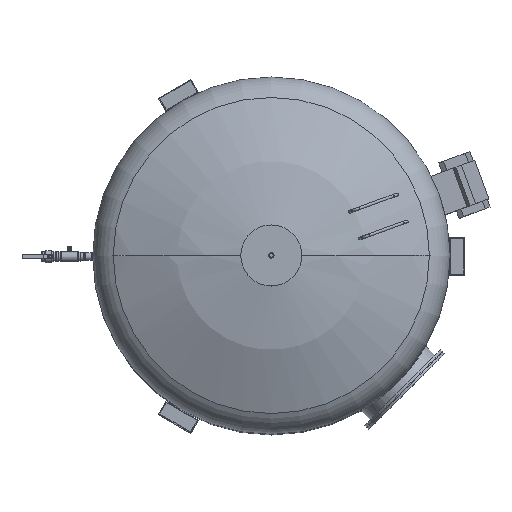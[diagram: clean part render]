
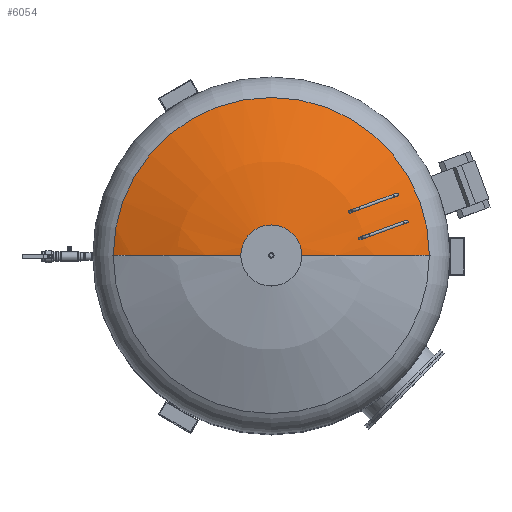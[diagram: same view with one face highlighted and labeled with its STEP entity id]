
A CAD part, top view. The second image highlights one B-rep face of the part: STEP entity #6054.
In plain terms, the highlighted spherical face has radius 2006 mm.
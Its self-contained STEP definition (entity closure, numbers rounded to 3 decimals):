
#68=SPHERICAL_SURFACE('',#6640,2006.);
#689=FACE_OUTER_BOUND('',#1059,.T.);
#1059=EDGE_LOOP('',(#4940,#4941,#4942,#4943,#4944,#4945,#4946,#4947));
#1309=CIRCLE('',#6390,2006.);
#1310=CIRCLE('',#6391,2006.);
#1311=CIRCLE('',#6392,2006.);
#1313=CIRCLE('',#6394,2006.);
#1314=CIRCLE('',#6395,2006.);
#1315=CIRCLE('',#6396,2006.);
#1406=CIRCLE('',#6582,884.869);
#1444=CIRCLE('',#6639,152.999);
#2572=VERTEX_POINT('',#9417);
#2573=VERTEX_POINT('',#9418);
#2574=VERTEX_POINT('',#9420);
#2575=VERTEX_POINT('',#9422);
#2576=VERTEX_POINT('',#9424);
#2577=VERTEX_POINT('',#9426);
#2578=VERTEX_POINT('',#9428);
#2579=VERTEX_POINT('',#9430);
#3249=EDGE_CURVE('',#2572,#2573,#1309,.T.);
#3250=EDGE_CURVE('',#2572,#2574,#1310,.T.);
#3251=EDGE_CURVE('',#2575,#2574,#1311,.T.);
#3253=EDGE_CURVE('',#2576,#2577,#1313,.T.);
#3254=EDGE_CURVE('',#2578,#2577,#1314,.T.);
#3255=EDGE_CURVE('',#2578,#2579,#1315,.T.);
#3511=EDGE_CURVE('',#2579,#2573,#1406,.T.);
#3557=EDGE_CURVE('',#2576,#2575,#1444,.T.);
#4940=ORIENTED_EDGE('',*,*,#3249,.T.);
#4941=ORIENTED_EDGE('',*,*,#3511,.F.);
#4942=ORIENTED_EDGE('',*,*,#3255,.F.);
#4943=ORIENTED_EDGE('',*,*,#3254,.T.);
#4944=ORIENTED_EDGE('',*,*,#3253,.F.);
#4945=ORIENTED_EDGE('',*,*,#3557,.T.);
#4946=ORIENTED_EDGE('',*,*,#3251,.T.);
#4947=ORIENTED_EDGE('',*,*,#3250,.F.);
#6054=ADVANCED_FACE('',(#689),#68,.T.);
#6390=AXIS2_PLACEMENT_3D('',#9419,#7481,#7482);
#6391=AXIS2_PLACEMENT_3D('',#9421,#7483,#7484);
#6392=AXIS2_PLACEMENT_3D('',#9423,#7485,#7486);
#6394=AXIS2_PLACEMENT_3D('',#9427,#7489,#7490);
#6395=AXIS2_PLACEMENT_3D('',#9429,#7491,#7492);
#6396=AXIS2_PLACEMENT_3D('',#9431,#7493,#7494);
#6582=AXIS2_PLACEMENT_3D('',#10201,#7989,#7990);
#6639=AXIS2_PLACEMENT_3D('',#10298,#8111,#8112);
#6640=AXIS2_PLACEMENT_3D('',#10300,#8114,#8115);
#7481=DIRECTION('center_axis',(0.,1.,0.));
#7482=DIRECTION('ref_axis',(1.,0.,0.));
#7483=DIRECTION('center_axis',(0.,-1.,0.));
#7484=DIRECTION('ref_axis',(-0.441,0.,-0.897));
#7485=DIRECTION('center_axis',(0.,1.,0.));
#7486=DIRECTION('ref_axis',(1.,0.,0.));
#7489=DIRECTION('center_axis',(0.,-1.,0.));
#7490=DIRECTION('ref_axis',(-1.,0.,0.));
#7491=DIRECTION('center_axis',(0.,1.,0.));
#7492=DIRECTION('ref_axis',(0.441,0.,-0.897));
#7493=DIRECTION('center_axis',(0.,-1.,0.));
#7494=DIRECTION('ref_axis',(-1.,0.,0.));
#7989=DIRECTION('center_axis',(0.,0.,-1.));
#7990=DIRECTION('ref_axis',(1.,0.,0.));
#8111=DIRECTION('center_axis',(0.,0.,-1.));
#8112=DIRECTION('ref_axis',(1.,0.,0.));
#8114=DIRECTION('center_axis',(0.,0.,
1.));
#8115=DIRECTION('ref_axis',(-1.,0.,0.));
#9417=CARTESIAN_POINT('',(873.038,0.,3589.207));
#9418=CARTESIAN_POINT('',(884.869,0.,3583.44));
#9419=CARTESIAN_POINT('Origin',(0.,0.,1783.151));
#9420=CARTESIAN_POINT('',(781.947,0.,3630.472));
#9421=CARTESIAN_POINT('Origin',(0.,0.,1783.151));
#9422=CARTESIAN_POINT('',(152.999,0.,3783.308));
#9423=CARTESIAN_POINT('Origin',(0.,0.,1783.151));
#9424=CARTESIAN_POINT('',(-152.999,0.,3783.308));
#9426=CARTESIAN_POINT('',(-781.947,0.,3630.472));
#9427=CARTESIAN_POINT('Origin',(0.,0.,1783.151));
#9428=CARTESIAN_POINT('',(-873.038,0.,3589.207));
#9429=CARTESIAN_POINT('Origin',(0.,0.,1783.151));
#9430=CARTESIAN_POINT('',(-884.869,0.,3583.44));
#9431=CARTESIAN_POINT('Origin',(0.,0.,1783.151));
#10201=CARTESIAN_POINT('Origin',(0.,0.,3583.44));
#10298=CARTESIAN_POINT('Origin',(0.,0.,3783.308));
#10300=CARTESIAN_POINT('Origin',(0.,0.,1783.151));
